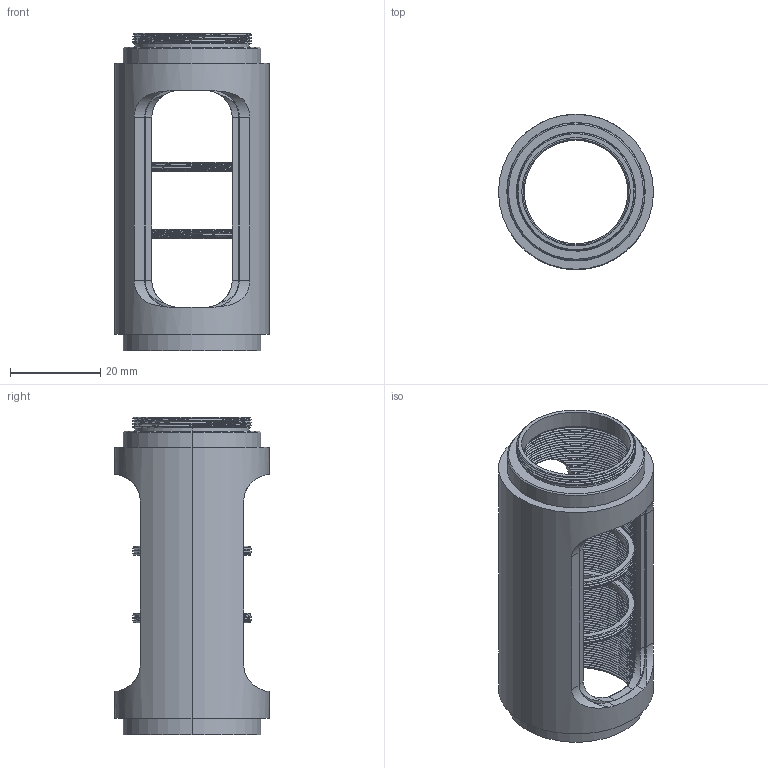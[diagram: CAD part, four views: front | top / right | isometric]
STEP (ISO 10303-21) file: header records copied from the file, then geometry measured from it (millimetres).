
FILE_DESCRIPTION((''),'2;1');
FILE_NAME('CSA-60CL3_ASM','2021-03-09T',('Administrator'),(''),'CREO PARAMETRIC BY PTC INC, 2015290','CREO PARAMETRIC BY PTC INC, 2015290','');
FILE_SCHEMA(('CONFIG_CONTROL_DESIGN'));
Products named in the file (4): CSK3; CSA-60CL3_A2; CSA-60CL3_A1; CSA-60CL3_ASM
Assembly tree (4 placements, depth 2):
  CSA-60CL3_ASM
    CSK3  x2
    CSA-60CL3_A2
    CSA-60CL3_A1
Bounding box: 34.29 x 34.29 x 70.16 mm (x, y, z)
Volume: 15351.1 mm3; surface area: 21818.1 mm2
Topology: 4 solids, 4 shells, 737 faces, 2098 edges, 1377 vertices
Faces by surface type: bspline 361, cylinder 282, plane 66, cone 28
Entity records: 121766 total; most frequent: CARTESIAN_POINT 107207, ORIENTED_EDGE 4004, EDGE_CURVE 2002, B_SPLINE_CURVE_WITH_KNOTS 1441, DIRECTION 1373, VERTEX_POINT 1317, EDGE_LOOP 723, FACE_OUTER_BOUND 700
